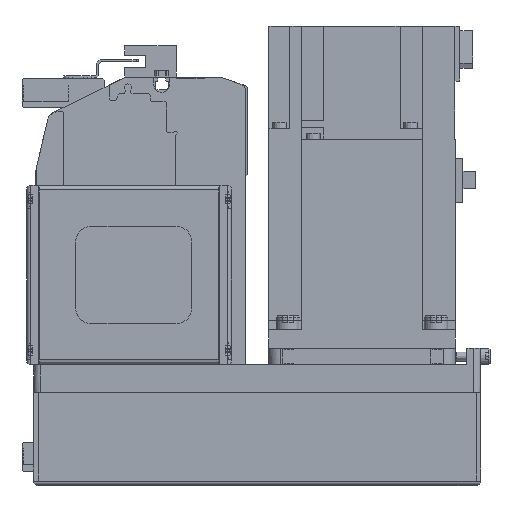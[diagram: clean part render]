
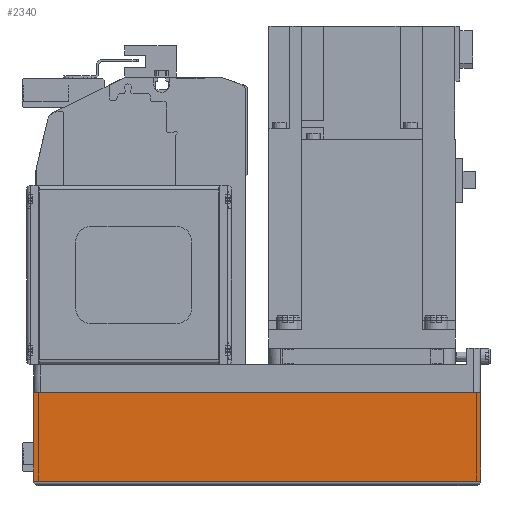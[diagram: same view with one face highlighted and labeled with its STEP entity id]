
A CAD part, left-side view. The second image highlights one B-rep face of the part: STEP entity #2340.
In plain terms, the highlighted planar face has unit normal (-1, 0, 0) as drawn and (0, 1, 0) by its records, which use the part's own axes.
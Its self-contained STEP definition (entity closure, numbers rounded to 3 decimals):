
#2340 = ADVANCED_FACE( '', ( #5428 ), #5429, .T. );
#5428 = FACE_OUTER_BOUND( '', #9294, .T. );
#5429 = PLANE( '', #9295 );
#9294 = EDGE_LOOP( '', ( #16038, #16039, #16040, #16041 ) );
#9295 = AXIS2_PLACEMENT_3D( '', #16042, #16043, #16044 );
#16038 = ORIENTED_EDGE( '', *, *, #24000, .F. );
#16039 = ORIENTED_EDGE( '', *, *, #24001, .F. );
#16040 = ORIENTED_EDGE( '', *, *, #24002, .T. );
#16041 = ORIENTED_EDGE( '', *, *, #24003, .T. );
#16042 = CARTESIAN_POINT( '', ( -192., 40., -50. ) );
#16043 = DIRECTION( '', ( 0., 1., 0. ) );
#16044 = DIRECTION( '', ( 0., 0., 1. ) );
#24000 = EDGE_CURVE( '', #29508, #26205, #29509, .T. );
#24001 = EDGE_CURVE( '', #29510, #29508, #29511, .T. );
#24002 = EDGE_CURVE( '', #29510, #29512, #29513, .T. );
#24003 = EDGE_CURVE( '', #29512, #26205, #29514, .T. );
#26205 = VERTEX_POINT( '', #32444 );
#29508 = VERTEX_POINT( '', #37729 );
#29509 = LINE( '', #37730, #37731 );
#29510 = VERTEX_POINT( '', #37732 );
#29511 = LINE( '', #37733, #37734 );
#29512 = VERTEX_POINT( '', #37735 );
#29513 = LINE( '', #37736, #37737 );
#29514 = LINE( '', #37738, #37739 );
#32444 = CARTESIAN_POINT( '', ( 0., 40., -12.1 ) );
#37729 = CARTESIAN_POINT( '', ( 0., 40., -50. ) );
#37730 = CARTESIAN_POINT( '', ( 0., 40., -50. ) );
#37731 = VECTOR( '', #43752, 1000. );
#37732 = CARTESIAN_POINT( '', ( -192., 40., -50. ) );
#37733 = CARTESIAN_POINT( '', ( -192., 40., -50. ) );
#37734 = VECTOR( '', #43753, 1000. );
#37735 = CARTESIAN_POINT( '', ( -192., 40., -12.1 ) );
#37736 = CARTESIAN_POINT( '', ( -192., 40., -50. ) );
#37737 = VECTOR( '', #43754, 1000. );
#37738 = CARTESIAN_POINT( '', ( -192., 40., -12.1 ) );
#37739 = VECTOR( '', #43755, 1000. );
#43752 = DIRECTION( '', ( 0., 0., 1. ) );
#43753 = DIRECTION( '', ( 1., 0., 0. ) );
#43754 = DIRECTION( '', ( 0., 0., 1. ) );
#43755 = DIRECTION( '', ( 1., 0., 0. ) );
